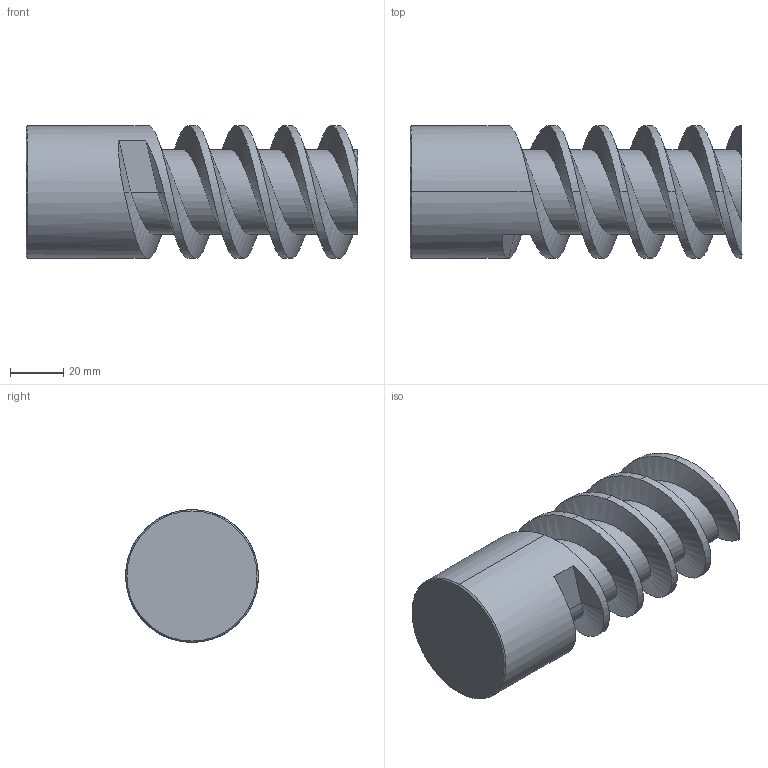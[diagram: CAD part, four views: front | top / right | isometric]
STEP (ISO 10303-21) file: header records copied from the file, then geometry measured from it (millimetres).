
FILE_DESCRIPTION (( 'STEP AP214' ), '1' );
FILE_NAME ('E2122_50_125.STEP', '2013-04-10T07:12:48', ( '' ), ( '' ), 'SwSTEP 2.0', 'SolidWorks 2013', '' );
FILE_SCHEMA (( 'AUTOMOTIVE_DESIGN' ));
Length unit declared in the file: millimetre
Products named in the file (1): E2122_50_125
Bounding box: 125 x 50 x 50 mm (x, y, z)
Volume: 176290.7 mm3; surface area: 28174.7 mm2
Topology: 1 solids, 1 shells, 26 faces, 66 edges, 42 vertices
Faces by surface type: cylinder 10, plane 8, bspline 6, cone 2
Entity records: 6295 total; most frequent: CARTESIAN_POINT 5468, ORIENTED_EDGE 132, DIRECTION 78, EDGE_CURVE 66, VERTEX_POINT 42, UNCERTAINTY_MEASURE_WITH_UNIT 29, SURFACE_SIDE_STYLE 28, FILL_AREA_STYLE 28
